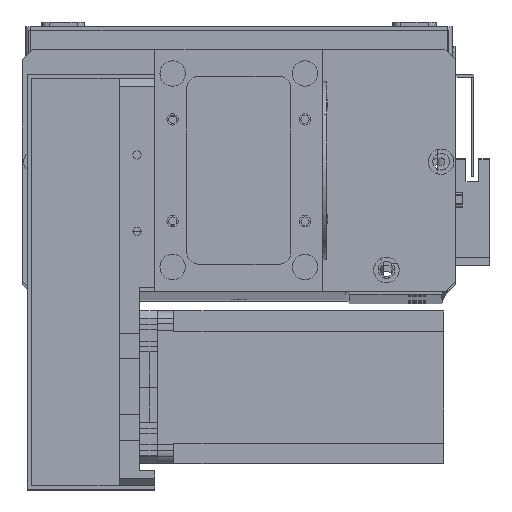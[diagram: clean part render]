
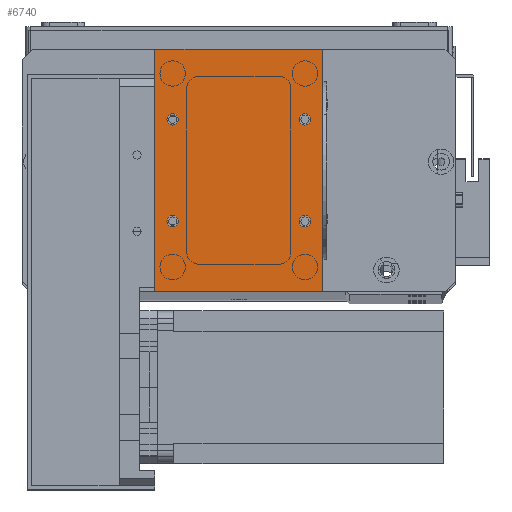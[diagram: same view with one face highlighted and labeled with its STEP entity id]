
A CAD part, top view. The second image highlights one B-rep face of the part: STEP entity #6740.
In plain terms, the highlighted planar face has unit normal (0, 0, 1).
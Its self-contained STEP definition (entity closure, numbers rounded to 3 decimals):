
#341 = AXIS2_PLACEMENT_3D ( 'NONE', #14221, #32650, #14667 ) ;
#657 = LINE ( 'NONE', #26213, #13647 ) ;
#1684 = CARTESIAN_POINT ( 'NONE',  ( 7., 27.5, 2. ) ) ;
#2084 = CIRCLE ( 'NONE', #27722, 2.25 ) ;
#2227 = ORIENTED_EDGE ( 'NONE', *, *, #7463, .F. ) ;
#2810 = CARTESIAN_POINT ( 'NONE',  ( 9.25, 27.5, 2. ) ) ;
#2868 = VERTEX_POINT ( 'NONE', #24441 ) ;
#3253 = DIRECTION ( 'NONE',  ( 0., 0., 1. ) ) ;
#3373 = CARTESIAN_POINT ( 'NONE',  ( 59., 67.5, 2. ) ) ;
#3469 = FACE_BOUND ( 'NONE', #27289, .T. ) ;
#3630 = CARTESIAN_POINT ( 'NONE',  ( 66., 95., 2. ) ) ;
#3897 = CARTESIAN_POINT ( 'NONE',  ( 4.75, 67.5, 2. ) ) ;
#4331 = DIRECTION ( 'NONE',  ( 1., 0., 0. ) ) ;
#4520 = CARTESIAN_POINT ( 'NONE',  ( 66., 0., 2. ) ) ;
#4652 = CARTESIAN_POINT ( 'NONE',  ( 0., 0., 2. ) ) ;
#4694 = ORIENTED_EDGE ( 'NONE', *, *, #30878, .T. ) ;
#4716 = CARTESIAN_POINT ( 'NONE',  ( 0., 95., 2. ) ) ;
#4776 = DIRECTION ( 'NONE',  ( 1., 0., 0. ) ) ;
#5423 = VERTEX_POINT ( 'NONE', #9516 ) ;
#5896 = FACE_BOUND ( 'NONE', #11446, .T. ) ;
#5976 = DIRECTION ( 'NONE',  ( 1., 0., 0. ) ) ;
#6740 = ADVANCED_FACE ( 'NONE', ( #11177, #3469, #5896, #10374, #17250 ), #9489, .F. ) ;
#6858 = CARTESIAN_POINT ( 'NONE',  ( 61.25, 67.5, 2. ) ) ;
#7320 = CARTESIAN_POINT ( 'NONE',  ( 66., 0., 2. ) ) ;
#7463 = EDGE_CURVE ( 'NONE', #29033, #28917, #9479, .T. ) ;
#7559 = DIRECTION ( 'NONE',  ( 0., 1., 0. ) ) ;
#7729 = EDGE_CURVE ( 'NONE', #32158, #5423, #33308, .T. ) ;
#8158 = EDGE_CURVE ( 'NONE', #28917, #29033, #2084, .T. ) ;
#9479 = CIRCLE ( 'NONE', #30301, 2.25 ) ;
#9489 = PLANE ( 'NONE',  #341 ) ;
#9516 = CARTESIAN_POINT ( 'NONE',  ( 61.25, 27.5, 2. ) ) ;
#10080 = CARTESIAN_POINT ( 'NONE',  ( 59., 27.5, 2. ) ) ;
#10374 = FACE_BOUND ( 'NONE', #30946, .T. ) ;
#10723 = VERTEX_POINT ( 'NONE', #6858 ) ;
#11177 = FACE_BOUND ( 'NONE', #28358, .T. ) ;
#11264 = CARTESIAN_POINT ( 'NONE',  ( 9.25, 67.5, 2. ) ) ;
#11375 = VECTOR ( 'NONE', #7559, 1000. ) ;
#11446 = EDGE_LOOP ( 'NONE', ( #22938, #19562 ) ) ;
#12005 = ORIENTED_EDGE ( 'NONE', *, *, #15474, .T. ) ;
#12516 = DIRECTION ( 'NONE',  ( -1., 0., 0. ) ) ;
#12581 = CARTESIAN_POINT ( 'NONE',  ( 0., 0., 2. ) ) ;
#12664 = DIRECTION ( 'NONE',  ( 1., 0., 0. ) ) ;
#13647 = VECTOR ( 'NONE', #28827, 1000. ) ;
#13787 = CIRCLE ( 'NONE', #24709, 2.25 ) ;
#14147 = CARTESIAN_POINT ( 'NONE',  ( 7., 67.5, 2. ) ) ;
#14221 = CARTESIAN_POINT ( 'NONE',  ( 0., 0., 2. ) ) ;
#14332 = DIRECTION ( 'NONE',  ( 0., 0., 1. ) ) ;
#14368 = AXIS2_PLACEMENT_3D ( 'NONE', #15196, #33282, #17806 ) ;
#14667 = DIRECTION ( 'NONE',  ( -1., 0., 0. ) ) ;
#15122 = CARTESIAN_POINT ( 'NONE',  ( 7., 27.5, 2. ) ) ;
#15196 = CARTESIAN_POINT ( 'NONE',  ( 59., 27.5, 2. ) ) ;
#15410 = EDGE_CURVE ( 'NONE', #16764, #33152, #13787, .T. ) ;
#15474 = EDGE_CURVE ( 'NONE', #24205, #32969, #18236, .T. ) ;
#16319 = ORIENTED_EDGE ( 'NONE', *, *, #22597, .T. ) ;
#16558 = VERTEX_POINT ( 'NONE', #32803 ) ;
#16764 = VERTEX_POINT ( 'NONE', #2810 ) ;
#16783 = DIRECTION ( 'NONE',  ( 1., 0., 0. ) ) ;
#16884 = AXIS2_PLACEMENT_3D ( 'NONE', #1684, #19816, #4331 ) ;
#17250 = FACE_OUTER_BOUND ( 'NONE', #18227, .T. ) ;
#17314 = EDGE_CURVE ( 'NONE', #5423, #32158, #19401, .T. ) ;
#17500 = ORIENTED_EDGE ( 'NONE', *, *, #24585, .F. ) ;
#17511 = VECTOR ( 'NONE', #4776, 1000. ) ;
#17665 = AXIS2_PLACEMENT_3D ( 'NONE', #18786, #3253, #21349 ) ;
#17739 = DIRECTION ( 'NONE',  ( 1., 0., 0. ) ) ;
#17806 = DIRECTION ( 'NONE',  ( 1., 0., 0. ) ) ;
#17938 = ORIENTED_EDGE ( 'NONE', *, *, #8158, .F. ) ;
#18227 = EDGE_LOOP ( 'NONE', ( #16319, #4694, #12005, #27937 ) ) ;
#18236 = LINE ( 'NONE', #7320, #11375 ) ;
#18329 = LINE ( 'NONE', #12581, #17511 ) ;
#18786 = CARTESIAN_POINT ( 'NONE',  ( 59., 67.5, 2. ) ) ;
#19401 = CIRCLE ( 'NONE', #14368, 2.25 ) ;
#19541 = AXIS2_PLACEMENT_3D ( 'NONE', #3373, #21448, #5976 ) ;
#19562 = ORIENTED_EDGE ( 'NONE', *, *, #7729, .F. ) ;
#19816 = DIRECTION ( 'NONE',  ( 0., 0., 1. ) ) ;
#19907 = CARTESIAN_POINT ( 'NONE',  ( 4.75, 27.5, 2. ) ) ;
#20696 = EDGE_CURVE ( 'NONE', #33152, #16764, #27049, .T. ) ;
#20821 = VERTEX_POINT ( 'NONE', #4652 ) ;
#20836 = ORIENTED_EDGE ( 'NONE', *, *, #20696, .F. ) ;
#21189 = CIRCLE ( 'NONE', #19541, 2.25 ) ;
#21286 = LINE ( 'NONE', #4716, #27356 ) ;
#21349 = DIRECTION ( 'NONE',  ( 1., 0., 0. ) ) ;
#21448 = DIRECTION ( 'NONE',  ( 0., 0., 1. ) ) ;
#22597 = EDGE_CURVE ( 'NONE', #16558, #20821, #657, .T. ) ;
#22938 = ORIENTED_EDGE ( 'NONE', *, *, #17314, .F. ) ;
#23049 = EDGE_CURVE ( 'NONE', #32969, #16558, #21286, .T. ) ;
#24205 = VERTEX_POINT ( 'NONE', #4520 ) ;
#24441 = CARTESIAN_POINT ( 'NONE',  ( 56.75, 67.5, 2. ) ) ;
#24518 = ORIENTED_EDGE ( 'NONE', *, *, #26988, .F. ) ;
#24585 = EDGE_CURVE ( 'NONE', #2868, #10723, #21189, .T. ) ;
#24709 = AXIS2_PLACEMENT_3D ( 'NONE', #15122, #33206, #17739 ) ;
#25264 = ORIENTED_EDGE ( 'NONE', *, *, #15410, .F. ) ;
#26071 = CARTESIAN_POINT ( 'NONE',  ( 56.75, 27.5, 2. ) ) ;
#26180 = AXIS2_PLACEMENT_3D ( 'NONE', #10080, #28154, #12664 ) ;
#26213 = CARTESIAN_POINT ( 'NONE',  ( 0., 0., 2. ) ) ;
#26988 = EDGE_CURVE ( 'NONE', #10723, #2868, #28722, .T. ) ;
#27049 = CIRCLE ( 'NONE', #16884, 2.25 ) ;
#27289 = EDGE_LOOP ( 'NONE', ( #24518, #17500 ) ) ;
#27356 = VECTOR ( 'NONE', #12516, 1000. ) ;
#27722 = AXIS2_PLACEMENT_3D ( 'NONE', #29830, #14332, #32408 ) ;
#27937 = ORIENTED_EDGE ( 'NONE', *, *, #23049, .T. ) ;
#28154 = DIRECTION ( 'NONE',  ( 0., 0., 1. ) ) ;
#28358 = EDGE_LOOP ( 'NONE', ( #17938, #2227 ) ) ;
#28722 = CIRCLE ( 'NONE', #17665, 2.25 ) ;
#28827 = DIRECTION ( 'NONE',  ( 0., -1., 0. ) ) ;
#28917 = VERTEX_POINT ( 'NONE', #11264 ) ;
#29033 = VERTEX_POINT ( 'NONE', #3897 ) ;
#29830 = CARTESIAN_POINT ( 'NONE',  ( 7., 67.5, 2. ) ) ;
#30301 = AXIS2_PLACEMENT_3D ( 'NONE', #14147, #32243, #16783 ) ;
#30878 = EDGE_CURVE ( 'NONE', #20821, #24205, #18329, .T. ) ;
#30946 = EDGE_LOOP ( 'NONE', ( #25264, #20836 ) ) ;
#32158 = VERTEX_POINT ( 'NONE', #26071 ) ;
#32243 = DIRECTION ( 'NONE',  ( 0., 0., 1. ) ) ;
#32408 = DIRECTION ( 'NONE',  ( 1., 0., 0. ) ) ;
#32650 = DIRECTION ( 'NONE',  ( 0., 0., -1. ) ) ;
#32803 = CARTESIAN_POINT ( 'NONE',  ( 0., 95., 2. ) ) ;
#32969 = VERTEX_POINT ( 'NONE', #3630 ) ;
#33152 = VERTEX_POINT ( 'NONE', #19907 ) ;
#33206 = DIRECTION ( 'NONE',  ( 0., 0., 1. ) ) ;
#33282 = DIRECTION ( 'NONE',  ( 0., 0., 1. ) ) ;
#33308 = CIRCLE ( 'NONE', #26180, 2.25 ) ;
